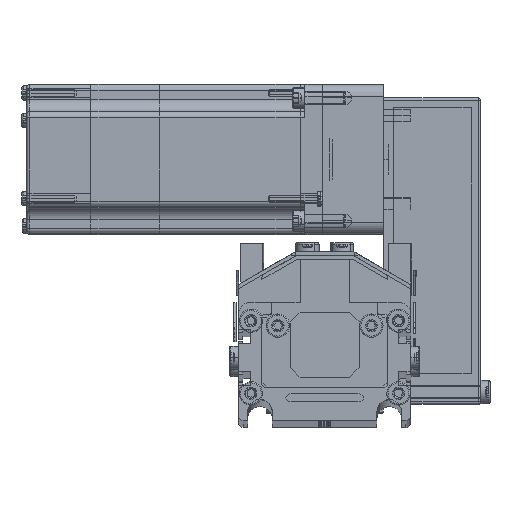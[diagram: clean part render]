
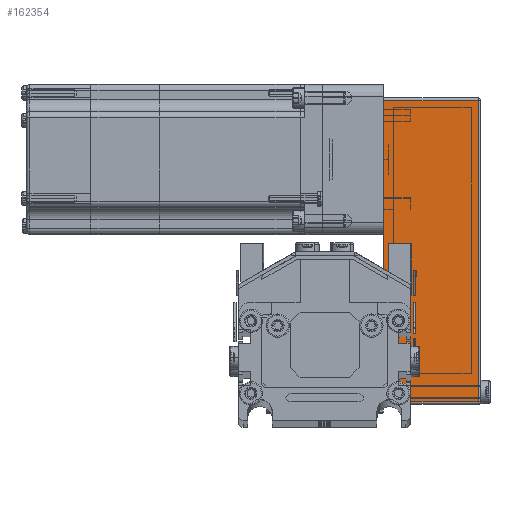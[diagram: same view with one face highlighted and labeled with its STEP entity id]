
A CAD part, top view. The second image highlights one B-rep face of the part: STEP entity #162354.
In plain terms, the highlighted planar face has unit normal (0, 0, 1) as drawn and (0, 1, 0) by its records, which use the part's own axes.
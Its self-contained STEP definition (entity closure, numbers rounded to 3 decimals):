
#59287 = CARTESIAN_POINT ( 'NONE',  ( -50., 25., 0. ) ) ;
#59288 = LINE ( 'NONE', #59287, #59450 ) ;
#59448 = DIRECTION ( 'NONE',  ( -1., 0., 0. ) ) ;
#59450 = VECTOR ( 'NONE', #59448, 1000. ) ;
#59803 = CARTESIAN_POINT ( 'NONE',  ( 73.5, 25., 0. ) ) ;
#59984 = CARTESIAN_POINT ( 'NONE',  ( -49., 25., 0. ) ) ;
#61121 = CARTESIAN_POINT ( 'NONE',  ( 73.5, 25., 38.5 ) ) ;
#61156 = DIRECTION ( 'NONE',  ( 0., 0., 1. ) ) ;
#61158 = VECTOR ( 'NONE', #61156, 1000. ) ;
#61162 = CARTESIAN_POINT ( 'NONE',  ( -49., 25., 39.5 ) ) ;
#61163 = LINE ( 'NONE', #61162, #61158 ) ;
#61164 = CARTESIAN_POINT ( 'NONE',  ( -49., 25., 38.5 ) ) ;
#61223 = CARTESIAN_POINT ( 'NONE',  ( -50., 25., 39.5 ) ) ;
#61250 = DIRECTION ( 'NONE',  ( 0., 0., -1. ) ) ;
#61251 = DIRECTION ( 'NONE',  ( 0., -1., 0. ) ) ;
#61257 = PLANE ( 'NONE',  #61259 ) ;
#61259 = AXIS2_PLACEMENT_3D ( 'NONE', #61223, #61251, #61250 ) ;
#61266 = FACE_OUTER_BOUND ( 'NONE', #162244, .T. ) ;
#61300 = LINE ( 'NONE', #61304, #61303 ) ;
#61302 = DIRECTION ( 'NONE',  ( 1., 0., 0. ) ) ;
#61303 = VECTOR ( 'NONE', #61302, 1000. ) ;
#61304 = CARTESIAN_POINT ( 'NONE',  ( 74.5, 25., 38.5 ) ) ;
#61568 = DIRECTION ( 'NONE',  ( 0., 0., -1. ) ) ;
#61569 = VECTOR ( 'NONE', #61568, 1000. ) ;
#61580 = CARTESIAN_POINT ( 'NONE',  ( 73.5, 25., 39.5 ) ) ;
#61581 = LINE ( 'NONE', #61580, #61569 ) ;
#161804 = EDGE_CURVE ( 'NONE', #161874, #161954, #59288, .T. ) ;
#161874 = VERTEX_POINT ( 'NONE', #59803 ) ;
#161954 = VERTEX_POINT ( 'NONE', #59984 ) ;
#162244 = EDGE_LOOP ( 'NONE', ( #162368, #162272, #162376, #162373 ) ) ;
#162272 = ORIENTED_EDGE ( 'NONE', *, *, #162295, .T. ) ;
#162292 = VERTEX_POINT ( 'NONE', #61121 ) ;
#162295 = EDGE_CURVE ( 'NONE', #161954, #162296, #61163, .T. ) ;
#162296 = VERTEX_POINT ( 'NONE', #61164 ) ;
#162354 = ADVANCED_FACE ( 'NONE', ( #61266 ), #61257, .F. ) ;
#162368 = ORIENTED_EDGE ( 'NONE', *, *, #161804, .T. ) ;
#162373 = ORIENTED_EDGE ( 'NONE', *, *, #162500, .T. ) ;
#162376 = ORIENTED_EDGE ( 'NONE', *, *, #162387, .T. ) ;
#162387 = EDGE_CURVE ( 'NONE', #162296, #162292, #61300, .T. ) ;
#162500 = EDGE_CURVE ( 'NONE', #162292, #161874, #61581, .T. ) ;
